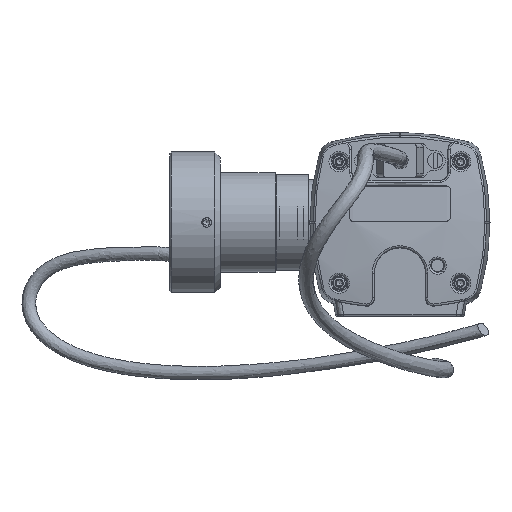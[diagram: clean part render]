
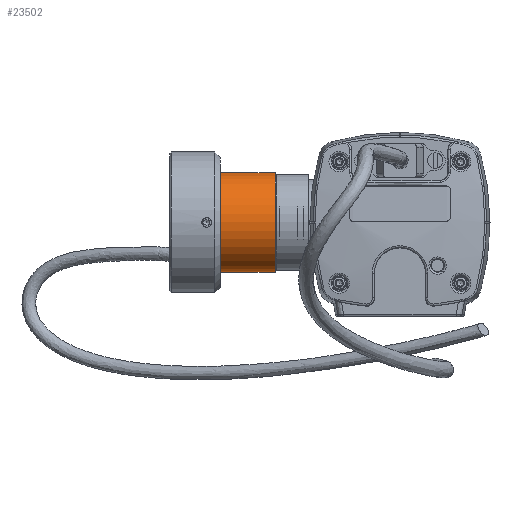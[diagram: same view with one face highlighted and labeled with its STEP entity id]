
A CAD part, left-side view. The second image highlights one B-rep face of the part: STEP entity #23502.
In plain terms, the highlighted cylindrical face has radius 12.7 mm (diameter 25.4 mm), a full revolution.
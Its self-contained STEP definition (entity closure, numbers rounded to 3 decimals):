
#1267=CYLINDRICAL_SURFACE('',#25644,12.7);
#3161=FACE_OUTER_BOUND('',#4514,.T.);
#4514=EDGE_LOOP('',(#19922,#19923,#19924,#19925,#19926,#19927));
#4808=CIRCLE('',#23795,12.7);
#4809=CIRCLE('',#23796,12.7);
#5607=CIRCLE('',#25645,12.7);
#5608=CIRCLE('',#25646,12.7);
#7033=LINE('',#62670,#8494);
#8494=VECTOR('',#31065,12.7);
#8837=VERTEX_POINT('',#32664);
#8838=VERTEX_POINT('',#32665);
#10626=VERTEX_POINT('',#62669);
#10627=VERTEX_POINT('',#62671);
#11079=EDGE_CURVE('',#8837,#8838,#4808,.T.);
#11080=EDGE_CURVE('',#8838,#8837,#4809,.T.);
#13796=EDGE_CURVE('',#8838,#10626,#7033,.T.);
#13797=EDGE_CURVE('',#10626,#10627,#5607,.T.);
#13798=EDGE_CURVE('',#10627,#10626,#5608,.T.);
#19922=ORIENTED_EDGE('',*,*,#11079,.F.);
#19923=ORIENTED_EDGE('',*,*,#11080,.F.);
#19924=ORIENTED_EDGE('',*,*,#13796,.T.);
#19925=ORIENTED_EDGE('',*,*,#13797,.T.);
#19926=ORIENTED_EDGE('',*,*,#13798,.T.);
#19927=ORIENTED_EDGE('',*,*,#13796,.F.);
#23502=ADVANCED_FACE('',(#3161),#1267,.T.);
#23795=AXIS2_PLACEMENT_3D('',#32666,#26218,#26219);
#23796=AXIS2_PLACEMENT_3D('',#32667,#26220,#26221);
#25644=AXIS2_PLACEMENT_3D('',#62668,#31063,#31064);
#25645=AXIS2_PLACEMENT_3D('',#62672,#31066,#31067);
#25646=AXIS2_PLACEMENT_3D('',#62673,#31068,#31069);
#26218=DIRECTION('center_axis',(0.,1.,0.));
#26219=DIRECTION('ref_axis',(-1.,0.,0.));
#26220=DIRECTION('center_axis',(0.,1.,0.));
#26221=DIRECTION('ref_axis',(-1.,0.,0.));
#31063=DIRECTION('center_axis',(0.,1.,0.));
#31064=DIRECTION('ref_axis',(-1.,0.,0.));
#31065=DIRECTION('',(0.,-1.,0.));
#31066=DIRECTION('center_axis',(0.,1.,0.));
#31067=DIRECTION('ref_axis',(-1.,0.,0.));
#31068=DIRECTION('center_axis',(0.,1.,0.));
#31069=DIRECTION('ref_axis',(-1.,0.,0.));
#32664=CARTESIAN_POINT('',(72.8,27.196,0.));
#32665=CARTESIAN_POINT('',(98.2,27.196,0.));
#32666=CARTESIAN_POINT('Origin',(85.5,27.196,0.));
#32667=CARTESIAN_POINT('Origin',(85.5,27.196,0.));
#62668=CARTESIAN_POINT('Origin',(85.5,26.846,0.));
#62669=CARTESIAN_POINT('',(98.2,13.196,0.));
#62670=CARTESIAN_POINT('',(98.2,26.846,0.));
#62671=CARTESIAN_POINT('',(72.8,13.196,0.));
#62672=CARTESIAN_POINT('Origin',(85.5,13.196,0.));
#62673=CARTESIAN_POINT('Origin',(85.5,13.196,0.));
